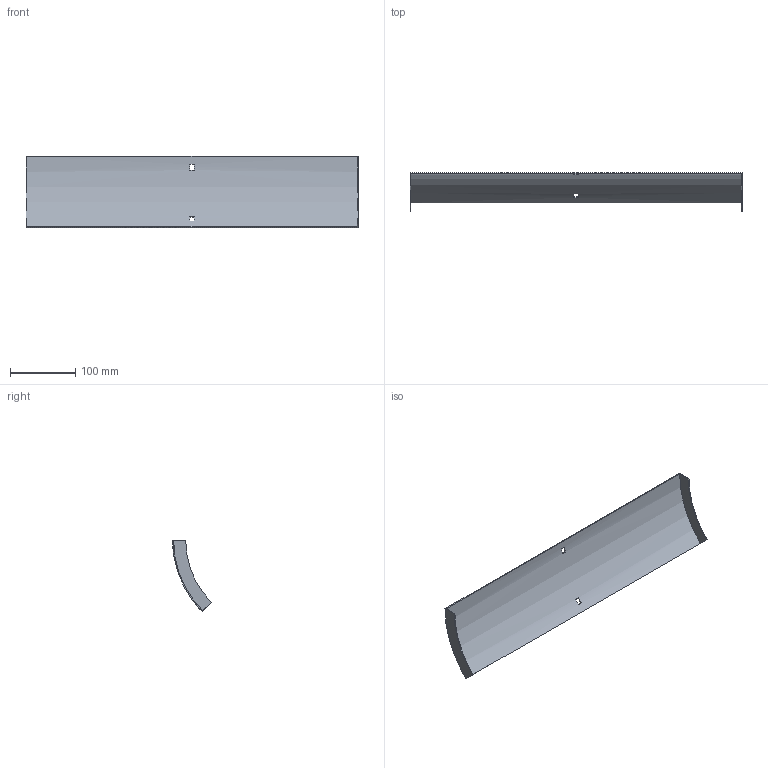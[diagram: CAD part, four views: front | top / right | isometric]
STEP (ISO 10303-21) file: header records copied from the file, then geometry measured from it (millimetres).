
FILE_DESCRIPTION (( 'STEP AP214' ), '1' );
FILE_NAME ('34N1B500.step', '2025-02-21T09:15:05', ( '' ), ( '' ), 'SwSTEP 2.0', 'SolidWorks 2023', '' );
FILE_SCHEMA (( 'AUTOMOTIVE_DESIGN' ));
Length unit declared in the file: millimetre
Products named in the file (1): 34N1B500
Bounding box: 507 x 59.1 x 108.54 mm (x, y, z)
Volume: 97282.7 mm3; surface area: 131752.2 mm2
Topology: 1 solids, 1 shells, 18 faces, 48 edges, 32 vertices
Faces by surface type: plane 14, cylinder 4
Entity records: 599 total; most frequent: DIRECTION 102, CARTESIAN_POINT 99, ORIENTED_EDGE 96, EDGE_CURVE 48, AXIS2_PLACEMENT_3D 35, LINE 32, VERTEX_POINT 32, VECTOR 32
